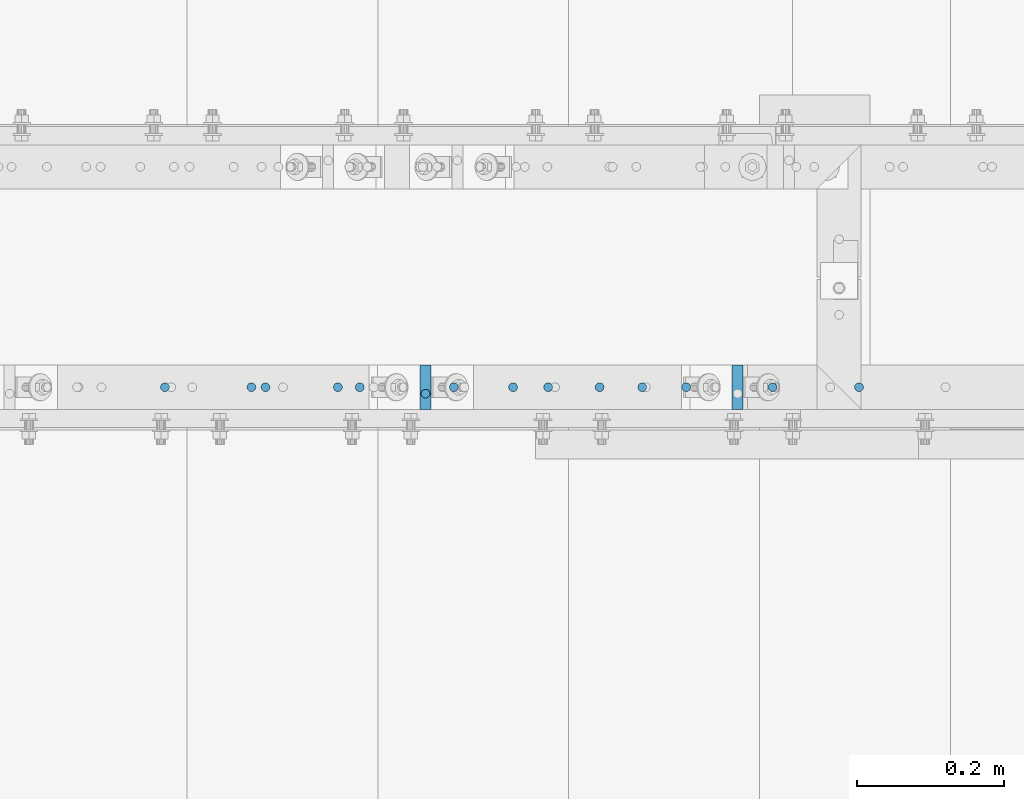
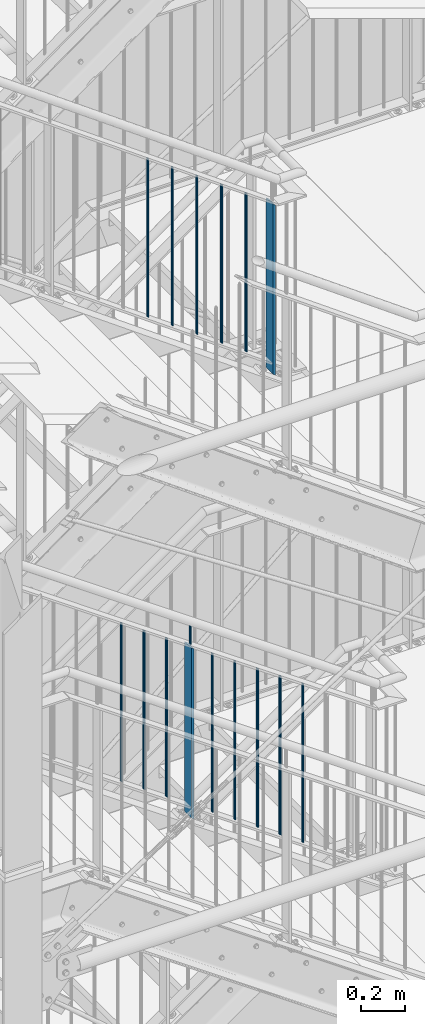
# One storey, part 59 of 825: 16 columns.
"""IFC2X3 building model written with IfcOpenShell, lengths in millimetres."""

from ifc_helpers import new_model, entity, si_unit, converted_unit, frame, origin, origin_with_axes, origin_2d, place, context, project, spatial, rectangle, circle, extrude, clip, halfspace, material, element, save


model = new_model("IFC2X3")

# Units and contexts
model_context = context("Model", 3, precision=1e-09, world=origin_with_axes())
ifc_project = project(units=[si_unit("LENGTHUNIT", "METRE", prefix="MILLI"), si_unit("AREAUNIT", "SQUARE_METRE"), si_unit("VOLUMEUNIT", "CUBIC_METRE"), converted_unit("PLANEANGLEUNIT", "DEGREE", entity("IfcPlaneAngleMeasure", 0.01745329), si_unit("PLANEANGLEUNIT", "RADIAN"), dimensions=[0, 0, 0, 0, 0, 0, 0])], contexts=[model_context])

# Site, building, storey
site_placement = place(None, origin_with_axes())
site = spatial("IfcSite", under=ifc_project, at=site_placement, Name="Cnopf'sche Kinderklinik", CompositionType="ELEMENT")
building_placement = place(site_placement, origin_with_axes())
building = spatial("IfcBuilding", under=site, at=building_placement, Name="Struktur 1", CompositionType="ELEMENT")
storey_placement = place(building_placement, origin_with_axes())
storey = spatial("IfcBuildingStorey", under=building, at=storey_placement, Name="Default Storey", CompositionType="ELEMENT", Elevation=0.0)

# Columns
ifc_material = material(Name="S235JR")
column_1_placement = place(None, frame((6601.71406966, 5791.736971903, 7400.016546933), z_axis=(0.0, 0.0, 1.0), x_axis=(-1.0, 0.0, 0.0)))
element("IfcColumn", 1, at=column_1_placement, inside=storey, material=ifc_material, Name="Railing_Post_Stair#1", ObjectType="Railing_Post_Stair#1", context=model_context, shape_type="Clipping", body=[
    clip(clip(extrude(rectangle(XDim=15.0, YDim=60.0, at=origin_2d()), origin(), (0.0, 0.0, -1.0), 1013.014378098), halfspace(frame((1395.234047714, 5791.736971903, 5.687831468), z_axis=(-0.57512827, 0.0, 0.818063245), x_axis=(0.0, -1.0, 0.0)), True)), halfspace(frame((954.190466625, 5791.736971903, 633.028830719), z_axis=(0.57512827, 0.0, -0.818063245), x_axis=(0.0, 1.0, 0.0)), True)),
])
column_2_placement = place(None, frame((7191.964291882, 5791.736971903, 6957.62092318), z_axis=(0.0, 0.0, 1.0), x_axis=(-1.0, 0.0, 0.0)))
element("IfcColumn", 2, at=column_2_placement, inside=storey, material=ifc_material, Name="Railing_Picket_Stair#2", ObjectType="Railing_Picket_Stair#2", context=model_context, shape_type="Clipping", body=[
    clip(clip(extrude(circle(Radius=6.0, at=origin_2d()), origin(), (0.0, 0.0, -1.0), 897.037988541), halfspace(frame((1544.440688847, 5791.736971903, 1075.424454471), z_axis=(0.57512827, 0.0, -0.818063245), x_axis=(0.0, 1.0, 0.0)), True)), halfspace(frame((1956.727856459, 5791.736971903, 488.986617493), z_axis=(-0.57512827, 0.0, 0.818063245), x_axis=(0.0, -1.0, 0.0)), True)),
])
column_3_placement = place(None, frame((7074.214236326, 5791.736971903, 7040.40350273), z_axis=(0.0, 0.0, 1.0), x_axis=(-1.0, 0.0, 0.0)))
element("IfcColumn", 3, at=column_3_placement, inside=storey, material=ifc_material, Name="Railing_Picket_Stair#3", ObjectType="Railing_Picket_Stair#3", context=model_context, shape_type="Clipping", body=[
    clip(clip(extrude(circle(Radius=6.0, at=origin_2d()), origin(), (0.0, 0.0, -1.0), 897.037988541), halfspace(frame((1426.690633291, 5791.736971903, 992.641874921), z_axis=(0.57512827, 0.0, -0.818063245), x_axis=(0.0, 1.0, 0.0)), True)), halfspace(frame((1838.977800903, 5791.736971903, 406.204037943), z_axis=(-0.57512827, 0.0, 0.818063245), x_axis=(0.0, -1.0, 0.0)), True)),
])
column_4_placement = place(None, frame((6956.464180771, 5791.736971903, 7123.186082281), z_axis=(0.0, 0.0, 1.0), x_axis=(-1.0, 0.0, 0.0)))
element("IfcColumn", 4, at=column_4_placement, inside=storey, material=ifc_material, Name="Railing_Picket_Stair#4", ObjectType="Railing_Picket_Stair#4", context=model_context, shape_type="Clipping", body=[
    clip(clip(extrude(circle(Radius=6.0, at=origin_2d()), origin(), (0.0, 0.0, -1.0), 897.037988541), halfspace(frame((1308.940577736, 5791.736971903, 909.85929537), z_axis=(0.57512827, 0.0, -0.818063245), x_axis=(0.0, 1.0, 0.0)), True)), halfspace(frame((1721.227745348, 5791.736971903, 323.421458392), z_axis=(-0.57512827, 0.0, 0.818063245), x_axis=(0.0, -1.0, 0.0)), True)),
])
column_5_placement = place(None, frame((6838.714125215, 5791.736971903, 7205.968661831), z_axis=(0.0, 0.0, 1.0), x_axis=(-1.0, 0.0, 0.0)))
element("IfcColumn", 5, at=column_5_placement, inside=storey, material=ifc_material, Name="Railing_Picket_Stair#5", ObjectType="Railing_Picket_Stair#5", context=model_context, shape_type="Clipping", body=[
    clip(clip(extrude(circle(Radius=6.0, at=origin_2d()), origin(), (0.0, 0.0, -1.0), 897.037988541), halfspace(frame((1191.19052218, 5791.736971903, 827.07671582), z_axis=(0.57512827, 0.0, -0.818063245), x_axis=(0.0, 1.0, 0.0)), True)), halfspace(frame((1603.477689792, 5791.736971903, 240.638878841), z_axis=(-0.57512827, 0.0, 0.818063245), x_axis=(0.0, -1.0, 0.0)), True)),
])
column_6_placement = place(None, frame((6720.96406966, 5791.736971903, 7288.751241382), z_axis=(0.0, 0.0, 1.0), x_axis=(-1.0, 0.0, 0.0)))
element("IfcColumn", 6, at=column_6_placement, inside=storey, material=ifc_material, Name="Railing_Picket_Stair#6", ObjectType="Railing_Picket_Stair#6", context=model_context, shape_type="Clipping", body=[
    clip(clip(extrude(circle(Radius=6.0, at=origin_2d()), origin(), (0.0, 0.0, -1.0), 897.037988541), halfspace(frame((1073.440466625, 5791.736971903, 744.294136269), z_axis=(0.57512827, 0.0, -0.818063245), x_axis=(0.0, 1.0, 0.0)), True)), halfspace(frame((1485.727634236, 5791.736971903, 157.856299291), z_axis=(-0.57512827, 0.0, 0.818063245), x_axis=(0.0, -1.0, 0.0)), True)),
])
column_7_placement = place(None, frame((6482.46406966, 5791.736971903, 7456.42543168), z_axis=(0.0, 0.0, 1.0), x_axis=(-1.0, 0.0, 0.0)))
element("IfcColumn", 7, at=column_7_placement, inside=storey, material=ifc_material, Name="Railing_Picket_Stair#7", ObjectType="Railing_Picket_Stair#7", context=model_context, shape_type="Clipping", body=[
    clip(clip(extrude(circle(Radius=6.0, at=origin_2d()), origin(), (0.0, 0.0, -1.0), 897.037988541), halfspace(frame((834.940466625, 5791.736971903, 576.619945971), z_axis=(0.57512827, 0.0, -0.818063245), x_axis=(0.0, 1.0, 0.0)), True)), halfspace(frame((1247.227634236, 5791.736971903, -9.817891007), z_axis=(-0.57512827, 0.0, 0.818063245), x_axis=(0.0, -1.0, 0.0)), True)),
])
column_8_placement = place(None, frame((6364.714014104, 5791.736971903, 7539.20801123), z_axis=(0.0, 0.0, 1.0), x_axis=(-1.0, 0.0, 0.0)))
element("IfcColumn", 8, at=column_8_placement, inside=storey, material=ifc_material, Name="Railing_Picket_Stair#8", ObjectType="Railing_Picket_Stair#8", context=model_context, shape_type="Clipping", body=[
    clip(clip(extrude(circle(Radius=6.0, at=origin_2d()), origin(), (0.0, 0.0, -1.0), 897.037988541), halfspace(frame((717.190411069, 5791.736971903, 493.837366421), z_axis=(0.57512827, 0.0, -0.818063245), x_axis=(0.0, 1.0, 0.0)), True)), halfspace(frame((1129.477578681, 5791.736971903, -92.600470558), z_axis=(-0.57512827, 0.0, 0.818063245), x_axis=(0.0, -1.0, 0.0)), True)),
])
column_9_placement = place(None, frame((6246.963958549, 5791.736971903, 7621.990590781), z_axis=(0.0, 0.0, 1.0), x_axis=(-1.0, 0.0, 0.0)))
element("IfcColumn", 9, at=column_9_placement, inside=storey, material=ifc_material, Name="Railing_Picket_Stair#9", ObjectType="Railing_Picket_Stair#9", context=model_context, shape_type="Clipping", body=[
    clip(clip(extrude(circle(Radius=6.0, at=origin_2d()), origin(), (0.0, 0.0, -1.0), 897.037988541), halfspace(frame((599.440355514, 5791.736971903, 411.05478687), z_axis=(0.57512827, 0.0, -0.818063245), x_axis=(0.0, 1.0, 0.0)), True)), halfspace(frame((1011.727523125, 5791.736971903, -175.383050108), z_axis=(-0.57512827, 0.0, 0.818063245), x_axis=(0.0, -1.0, 0.0)), True)),
])
column_10_placement = place(None, frame((6601.71406966, 5782.936971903, 7484.812330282), z_axis=(0.0, 0.0, 1.0), x_axis=(0.0, 1.0, 0.0)))
element("IfcColumn", 10, at=column_10_placement, inside=storey, material=ifc_material, Name="Bar#1", ObjectType="Bar#1", context=model_context, shape_type="Clipping", body=[
    clip(clip(extrude(circle(Radius=6.0, at=origin_2d()), origin(), (0.0, 0.0, -1.0), 120.744805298), halfspace(frame((-5782.936971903, 948.438033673, 556.41531595), z_axis=(0.0, -0.57512827, 0.818063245), x_axis=(1.0, 0.0, 0.0)), True)), halfspace(frame((-5782.936971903, 901.390054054, 623.336427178), z_axis=(0.0, 0.57512827, -0.818063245), x_axis=(-1.0, 0.0, 0.0)), True)),
])
column_11_placement = place(None, frame((7026.714402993, 5791.736971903, 9697.350117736), z_axis=(0.0, 0.0, 1.0), x_axis=(-1.0, 0.0, 0.0)))
element("IfcColumn", 11, at=column_11_placement, inside=storey, material=ifc_material, Name="Railing_Post_Stair#0", ObjectType="Railing_Post_Stair#0", context=model_context, shape_type="Clipping", body=[
    clip(clip(extrude(rectangle(XDim=15.0, YDim=60.0, at=origin_2d()), origin(), (0.0, 0.0, -1.0), 1013.13824851), halfspace(frame((472.648011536, 5791.736971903, -633.215746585), z_axis=(-0.585945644, 0.0, 0.810350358), x_axis=(0.0, -1.0, 0.0)), True)), halfspace(frame((27.828338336, 5791.736971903, -18.039602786), z_axis=(0.585945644, 0.0, -0.810350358), x_axis=(0.0, 1.0, 0.0)), True)),
])
column_12_placement = place(None, frame((6896.934402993, 5791.736971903, 9763.50176963), z_axis=(0.0, 0.0, 1.0), x_axis=(-1.0, 0.0, 0.0)))
element("IfcColumn", 12, at=column_12_placement, inside=storey, material=ifc_material, Name="Railing_Picket_Stair#0", ObjectType="Railing_Picket_Stair#0", context=model_context, shape_type="Clipping", body=[
    clip(clip(extrude(circle(Radius=6.0, at=origin_2d()), origin(), (0.0, 0.0, -1.0), 896.057999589), halfspace(frame((-101.951661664, 5791.736971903, -84.19125468), z_axis=(0.585945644, 0.0, -0.810350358), x_axis=(0.0, 1.0, 0.0)), True)), halfspace(frame((313.570729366, 5791.736971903, -658.849880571), z_axis=(-0.585945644, 0.0, 0.810350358), x_axis=(0.0, -1.0, 0.0)), True)),
])
column_13_placement = place(None, frame((6768.657188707, 5791.736971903, 9856.256063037), z_axis=(0.0, 0.0, 1.0), x_axis=(-1.0, 0.0, 0.0)))
element("IfcColumn", 13, at=column_13_placement, inside=storey, material=ifc_material, Name="Railing_Picket_Stair#1", ObjectType="Railing_Picket_Stair#1", context=model_context, shape_type="Clipping", body=[
    clip(clip(extrude(circle(Radius=6.0, at=origin_2d()), origin(), (0.0, 0.0, -1.0), 896.057999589), halfspace(frame((-230.228875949, 5791.736971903, -176.945548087), z_axis=(0.585945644, 0.0, -0.810350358), x_axis=(0.0, 1.0, 0.0)), True)), halfspace(frame((185.29351508, 5791.736971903, -751.604173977), z_axis=(-0.585945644, 0.0, 0.810350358), x_axis=(0.0, -1.0, 0.0)), True)),
])
column_14_placement = place(None, frame((6640.379974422, 5791.736971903, 9949.010356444), z_axis=(0.0, 0.0, 1.0), x_axis=(-1.0, 0.0, 0.0)))
element("IfcColumn", 14, at=column_14_placement, inside=storey, material=ifc_material, Name="Railing_Picket_Stair#2", ObjectType="Railing_Picket_Stair#2", context=model_context, shape_type="Clipping", body=[
    clip(clip(extrude(circle(Radius=6.0, at=origin_2d()), origin(), (0.0, 0.0, -1.0), 896.057999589), halfspace(frame((-358.506090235, 5791.736971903, -269.699841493), z_axis=(0.585945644, 0.0, -0.810350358), x_axis=(0.0, 1.0, 0.0)), True)), halfspace(frame((57.016300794, 5791.736971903, -844.358467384), z_axis=(-0.585945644, 0.0, 0.810350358), x_axis=(0.0, -1.0, 0.0)), True)),
])
column_15_placement = place(None, frame((6512.102760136, 5791.736971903, 10041.76464985), z_axis=(0.0, 0.0, 1.0), x_axis=(-1.0, 0.0, 0.0)))
element("IfcColumn", 15, at=column_15_placement, inside=storey, material=ifc_material, Name="Railing_Picket_Stair#3", ObjectType="Railing_Picket_Stair#3", context=model_context, shape_type="Clipping", body=[
    clip(clip(extrude(circle(Radius=6.0, at=origin_2d()), origin(), (0.0, 0.0, -1.0), 896.057999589), halfspace(frame((-486.783304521, 5791.736971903, -362.4541349), z_axis=(0.585945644, 0.0, -0.810350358), x_axis=(0.0, 1.0, 0.0)), True)), halfspace(frame((-71.260913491, 5791.736971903, -937.112760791), z_axis=(-0.585945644, 0.0, 0.810350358), x_axis=(0.0, -1.0, 0.0)), True)),
])
column_16_placement = place(None, frame((6383.82554585, 5791.736971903, 10134.518943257), z_axis=(0.0, 0.0, 1.0), x_axis=(-1.0, 0.0, 0.0)))
element("IfcColumn", 16, at=column_16_placement, inside=storey, material=ifc_material, Name="Railing_Picket_Stair#4", ObjectType="Railing_Picket_Stair#4", context=model_context, shape_type="Clipping", body=[
    clip(clip(extrude(circle(Radius=6.0, at=origin_2d()), origin(), (0.0, 0.0, -1.0), 896.057999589), halfspace(frame((-615.060518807, 5791.736971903, -455.208428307), z_axis=(0.585945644, 0.0, -0.810350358), x_axis=(0.0, 1.0, 0.0)), True)), halfspace(frame((-199.538127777, 5791.736971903, -1029.867054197), z_axis=(-0.585945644, 0.0, 0.810350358), x_axis=(0.0, -1.0, 0.0)), True)),
])

save(model, "model.ifc")
